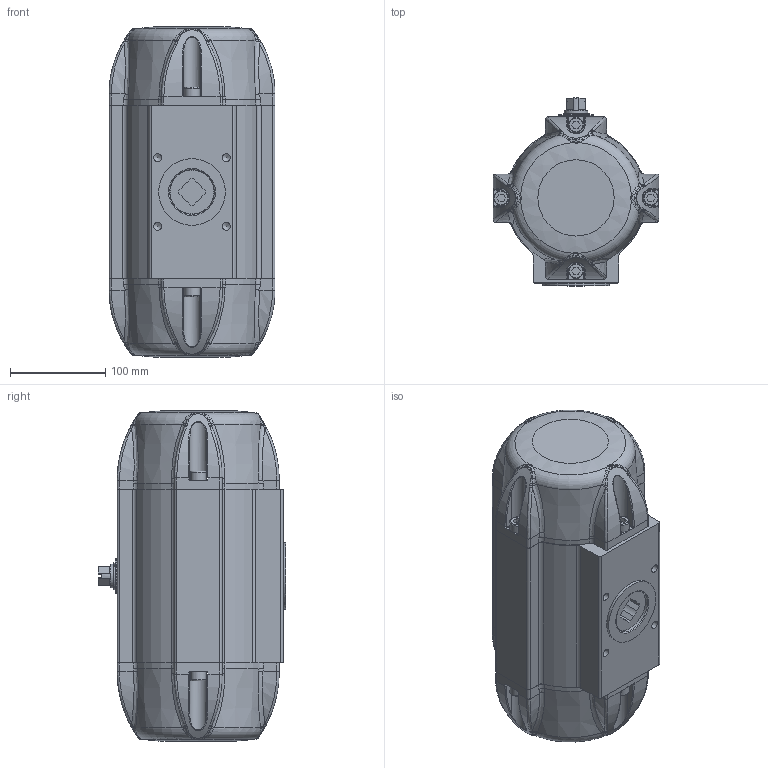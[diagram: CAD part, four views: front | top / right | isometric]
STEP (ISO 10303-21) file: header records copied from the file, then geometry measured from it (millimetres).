
FILE_DESCRIPTION(/* description */ (''),/* implementation_level */ '2;1');
FILE_NAME(/* name */ 'P:\KO\DOKUMENTATION ANTRIEBSPROGRAMM\AKTUELLES ANTRIEBSPROGRAMM\BR03C_SAD_SAF_90°_Chemie\STEP-Dateien\30\SAF 30 BR03C.stp',/* time_stamp */ '2020-12-11T08:09:42+01:00',/* author */ ('mkl'),/* organization */ (''),/* preprocessor_version */ 'ST-DEVELOPER v16.1',/* originating_system */ 'Autodesk Inventor 2016',/* authorisation */ '');
FILE_SCHEMA (('AUTOMOTIVE_DESIGN { 1 0 10303 214 3 1 1 }'));
Length unit declared in the file: millimetre
Products named in the file (1): ENG-052750_Shrinkwrap_1
Bounding box: 174 x 197 x 346 mm (x, y, z)
Surface area: 263938.6 mm2 (no closed solid volume)
Topology: 0 solids, 19 shells, 570 faces, 1670 edges, 1074 vertices
Faces by surface type: bspline 222, cylinder 153, plane 139, torus 35, cone 21
Full cylindrical faces by diameter (mm): 4.134 x8, 4.917 x1, 8.376 x4, 11.445 x2, 16 x8, 20 x1, 24.8 x1, 36 x2, 47 x1, 70 x1
Entity records: 25294 total; most frequent: CARTESIAN_POINT 11381, ORIENTED_EDGE 2751, DIRECTION 2349, EDGE_CURVE 1603, VERTEX_POINT 1058, AXIS2_PLACEMENT_3D 926, EDGE_LOOP 662, CIRCLE 577
